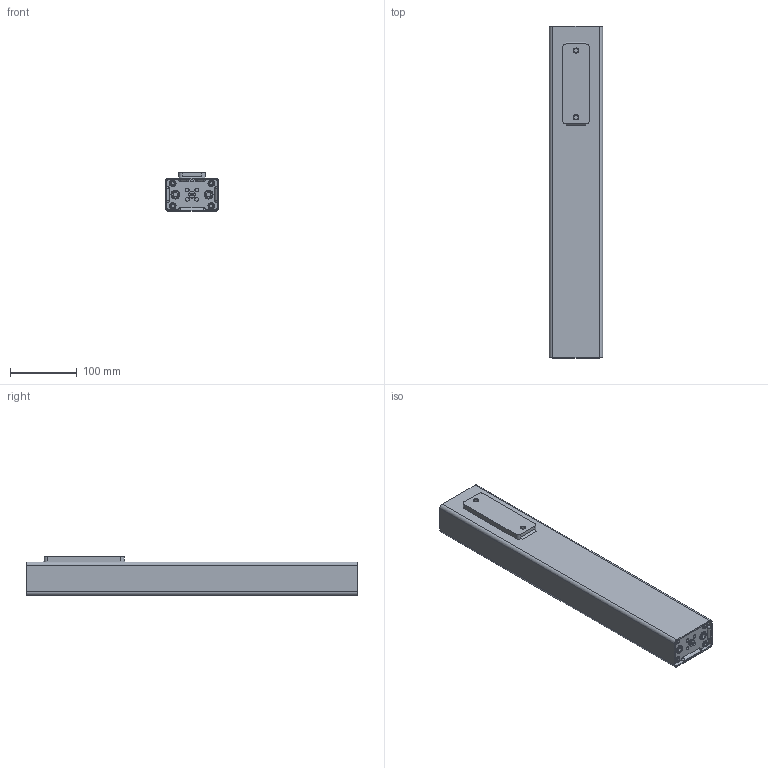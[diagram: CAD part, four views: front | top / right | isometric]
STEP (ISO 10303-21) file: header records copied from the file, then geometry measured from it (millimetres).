
FILE_DESCRIPTION((''),'2;1');
FILE_NAME('1041W7906-A-06-3_AF2','2019-12-13T13:47:27',('mbes'),(''),'CREO PARAMETRIC BY PTC INC, 2018400','CREO PARAMETRIC BY PTC INC, 2018400','');
FILE_SCHEMA(('AUTOMOTIVE_DESIGN { 1 0 10303 214 1 1 1 1 }'));
Length unit declared in the file: millimetre
Products named in the file (1): 1041W7906-A-06-3_AF2
Bounding box: 80 x 498 x 58 mm (x, y, z)
Volume: 1996639.5 mm3; surface area: 140988.5 mm2
Topology: 1 solids, 2 shells, 320 faces, 826 edges, 527 vertices
Faces by surface type: cylinder 132, plane 122, torus 42, bspline 16, cone 8
Entity records: 12810 total; most frequent: CARTESIAN_POINT 3833, DIRECTION 1872, ORIENTED_EDGE 1648, EDGE_CURVE 824, AXIS2_PLACEMENT_3D 674, VERTEX_POINT 527, VECTOR 524, LINE 524
